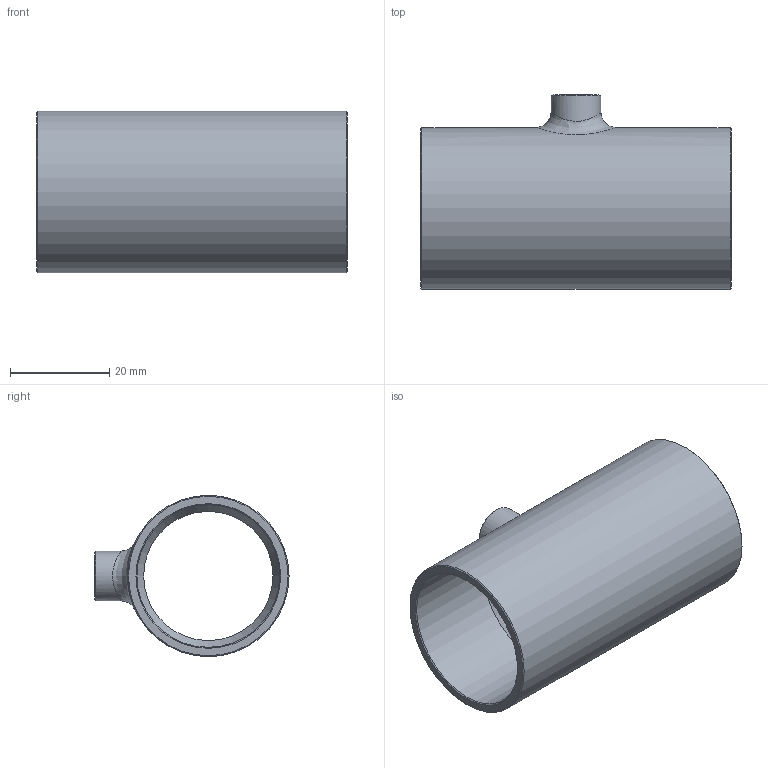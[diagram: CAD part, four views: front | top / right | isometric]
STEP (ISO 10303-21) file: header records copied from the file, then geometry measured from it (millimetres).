
FILE_DESCRIPTION((''),'2;1');
FILE_NAME('G:\SANHA-Ternat\Technik\Management\Bouwmaten + markeringen\z-maattekeningen 3D\29000s\2913011814118_3d.stp','2018-06-04T09:41:08',('vdvijverd'),(''),'Autodesk Inventor 2009','Autodesk Inventor 2009','');
FILE_SCHEMA(('AUTOMOTIVE_DESIGN { 1 0 10303 214 1 1 1 1 }'));
Length unit declared in the file: millimetre
Products named in the file (1): 2913011814118_3d
Bounding box: 62.4 x 39.05 x 32.5 mm (x, y, z)
Volume: 14098.6 mm3; surface area: 12510.8 mm2
Topology: 1 solids, 1 shells, 22 faces, 51 edges, 31 vertices
Faces by surface type: cone 8, cylinder 7, bspline 4, plane 3
Full cylindrical faces by diameter (mm): 6.47 x1, 10.03 x1, 26 x1, 28.725 x1, 32.5 x1
Entity records: 1734 total; most frequent: CARTESIAN_POINT 1317, DIRECTION 80, ORIENTED_EDGE 58, EDGE_LOOP 42, AXIS2_PLACEMENT_3D 40, EDGE_CURVE 29, VERTEX_POINT 25, FACE_OUTER_BOUND 22
